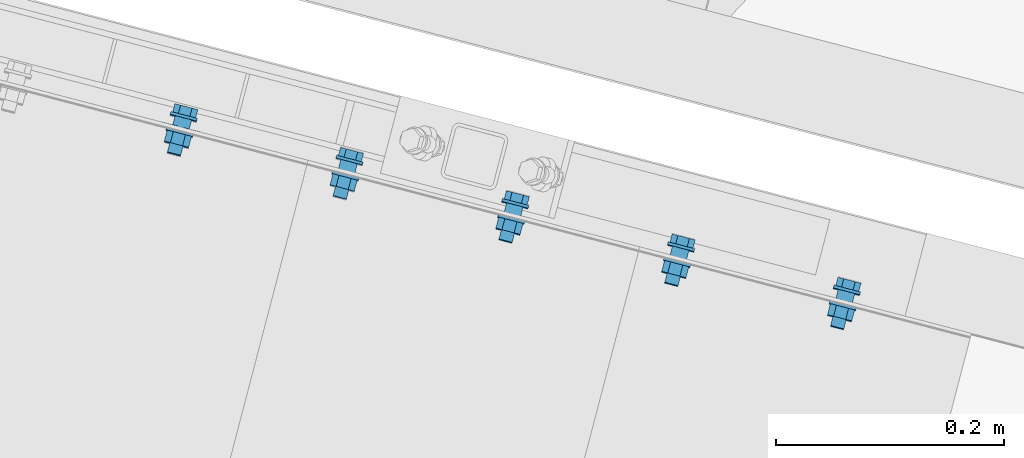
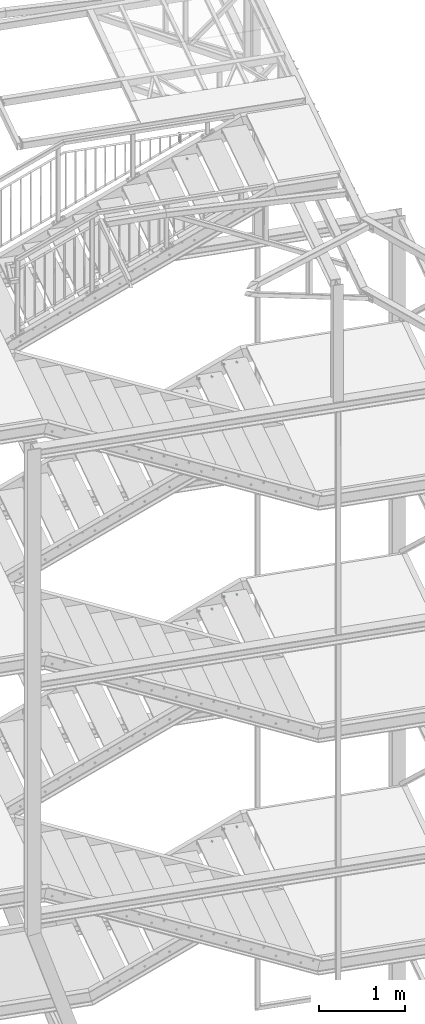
# One storey, part 152 of 169: 14 mechanical fasteners, 9 elements without a shape of their own.
"""IFC2X3 building model written with IfcOpenShell, lengths in millimetres."""

from ifc_helpers import new_model, si_unit, frame, frame_2d, origin_with_axes, origin_2d_with_axis, place, context, subcontext, project, spatial, polyline, circle_curve, parameter, trimmed, segment, composite_curve, circle, outline, extrude, source, transform, mapped, material, type_object, element, aggregate, save


model = new_model("IFC2X3")

# Units and contexts
model_context = context("Model", 3, precision=1e-05, world=origin_with_axes())
body_context = subcontext(model_context, "Body", "Model", "MODEL_VIEW")
ifc_project = project(units=[si_unit("LENGTHUNIT", "METRE", prefix="MILLI"), si_unit("AREAUNIT", "SQUARE_METRE"), si_unit("VOLUMEUNIT", "CUBIC_METRE"), si_unit("MASSUNIT", "GRAM", prefix="KILO"), si_unit("TIMEUNIT", "SECOND"), si_unit("PLANEANGLEUNIT", "RADIAN"), si_unit("SOLIDANGLEUNIT", "STERADIAN"), si_unit("THERMODYNAMICTEMPERATUREUNIT", "DEGREE_CELSIUS"), si_unit("LUMINOUSINTENSITYUNIT", "LUMEN")], contexts=[model_context])

# Site, building, storey
site_placement = place(None, origin_with_axes())
site = spatial("IfcSite", under=ifc_project, at=site_placement, Name="Undefined", CompositionType="ELEMENT")
building_placement = place(site_placement, origin_with_axes())
building = spatial("IfcBuilding", under=site, at=building_placement, Name="Undefined", CompositionType="ELEMENT")
storey_placement = place(building_placement, origin_with_axes())
storey = spatial("IfcBuildingStorey", under=building, at=storey_placement, Name="Undefined", CompositionType="ELEMENT", Elevation=0.0)

# Assembly, mechanical fastener
assembly_1_placement = place(storey_placement, origin_with_axes())
assembly_1 = element("IfcElementAssembly", 1, at=assembly_1_placement, inside=storey, Name="Steel Assembly", AssemblyPlace="NOTDEFINED", PredefinedType="RIGID_FRAME")
ifc_material = material(Name="Undefined")
discrete_accessory_type = type_object("IfcDiscreteAccessoryType", Name="Bolt assembly")
shared_shape_1 = source(origin_with_axes(), body_context, "Body", "SweptSolid", [
    extrude(circle(Radius=7.5, at=origin_2d_with_axis()), frame((0.0, -8.39999975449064, 0.0), z_axis=(0.0, 1.0, 0.0), x_axis=(1.0, 0.0, 0.0)), (0.0, 0.0, 1.0), 8.5),
    extrude(circle(Radius=7.5, at=origin_2d_with_axis()), frame((0.0, -0.100000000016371, 0.0), z_axis=(0.0, 1.0, 0.0), x_axis=(1.0, 0.0, 0.0)), (0.0, 0.0, 1.0), 3.1),
    extrude(outline(polyline([(10.39230484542, 0.0), (5.19615242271, 9.00000000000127), (-5.19615242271, 9.00000000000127), (-10.39230484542, 0.0), (-5.19615242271, -9.00000000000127), (5.19615242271, -9.00000000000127), (10.39230484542, 0.0)])), frame((0.0, -18.4999993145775, 0.0), z_axis=(0.0, 1.0, 0.0), x_axis=(1.0, 0.0, 0.0)), (0.0, 0.0, 1.0), 7.5),
    extrude(circle(Radius=6.0, at=origin_2d_with_axis()), frame((0.0, -10.9999999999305, 0.0), z_axis=(0.0, 1.0, 0.0), x_axis=(1.0, 0.0, 0.0)), (0.0, 0.0, 1.0), 35.0),
    extrude(circle(Radius=12.0, at=origin_2d_with_axis()), frame((0.0, -10.9999999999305, 0.0), z_axis=(0.0, 1.0, 0.0), x_axis=(1.0, 0.0, 0.0)), (0.0, 0.0, 1.0), 2.5),
    extrude(circle(Radius=12.0, at=origin_2d_with_axis()), frame((0.0, 2.99999999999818, 0.0), z_axis=(0.0, 1.0, 0.0), x_axis=(1.0, 0.0, 0.0)), (0.0, 0.0, 1.0), 2.5),
    extrude(outline(polyline([(10.96965511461, 0.0), (5.484827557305, 9.50000000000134), (-5.484827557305, 9.50000000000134), (-10.96965511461, 0.0), (-5.484827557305, -9.50000000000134), (5.484827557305, -9.50000000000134), (10.96965511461, 0.0)])), frame((0.0, 5.50000000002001, 0.0), z_axis=(0.0, 1.0, 0.0), x_axis=(1.0, 0.0, 0.0)), (0.0, 0.0, 1.0), 10.0),
])
mechanical_fastener_1_placement = place(assembly_1_placement, frame((-24663.2200523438, 8006.3870829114, 10550.0958168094), z_axis=(-2.54700353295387e-10, 0.0, -1.0), x_axis=(0.967580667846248, -0.252562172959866, 0.0)))
mechanical_fastener_1 = element("IfcMechanicalFastener", 2, at=mechanical_fastener_1_placement, type_object=discrete_accessory_type, material=ifc_material, Name="Bolt assembly", NominalDiameter=12.0, NominalLength=35.0, context=body_context, shape_type="MappedRepresentation", body=[
    mapped(shared_shape_1, transform((35.0000000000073, -1.23691279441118e-10, 25.0))),
])

assembly_2_placement = place(storey_placement, origin_with_axes())
assembly_2 = element("IfcElementAssembly", 3, at=assembly_2_placement, inside=storey, Name="Steel Assembly", AssemblyPlace="NOTDEFINED", PredefinedType="RIGID_FRAME")
mechanical_fastener_2_placement = place(assembly_2_placement, frame((-24953.494256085, 8082.15573572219, 10400.0958168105), z_axis=(-2.54700353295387e-10, 0.0, -1.0), x_axis=(0.967580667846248, -0.252562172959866, 0.0)))
mechanical_fastener_2 = element("IfcMechanicalFastener", 4, at=mechanical_fastener_2_placement, type_object=discrete_accessory_type, material=ifc_material, Name="Bolt assembly", NominalDiameter=12.0, NominalLength=35.0, context=body_context, shape_type="MappedRepresentation", body=[
    mapped(shared_shape_1, transform((35.0000000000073, -1.23691279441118e-10, 25.0))),
])

assembly_3_placement = place(storey_placement, origin_with_axes())
assembly_3 = element("IfcElementAssembly", 5, at=assembly_3_placement, inside=storey, Name="Steel Assembly", AssemblyPlace="NOTDEFINED", PredefinedType="RIGID_FRAME")
mechanical_fastener_3_placement = place(assembly_3_placement, frame((-24663.3341297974, 8005.95016795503, 7250.0958476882), z_axis=(-2.54700353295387e-10, 0.0, -1.0), x_axis=(0.967580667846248, -0.252562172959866, 0.0)))
mechanical_fastener_3 = element("IfcMechanicalFastener", 6, at=mechanical_fastener_3_placement, type_object=discrete_accessory_type, material=ifc_material, Name="Bolt assembly", NominalDiameter=12.0, NominalLength=35.0, context=body_context, shape_type="MappedRepresentation", body=[
    mapped(shared_shape_1, transform((35.0000000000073, -1.23691279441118e-10, 25.0))),
])

assembly_4_placement = place(storey_placement, origin_with_axes())
assembly_4 = element("IfcElementAssembly", 7, at=assembly_4_placement, inside=storey, Name="Steel Assembly", AssemblyPlace="NOTDEFINED", PredefinedType="RIGID_FRAME")
mechanical_fastener_4_placement = place(assembly_4_placement, frame((-24953.6083335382, 8081.71882076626, 7100.09584768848), z_axis=(-2.54700353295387e-10, 0.0, -1.0), x_axis=(0.967580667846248, -0.252562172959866, 0.0)))
mechanical_fastener_4 = element("IfcMechanicalFastener", 8, at=mechanical_fastener_4_placement, type_object=discrete_accessory_type, material=ifc_material, Name="Bolt assembly", NominalDiameter=12.0, NominalLength=35.0, context=body_context, shape_type="MappedRepresentation", body=[
    mapped(shared_shape_1, transform((35.0000000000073, -1.23691279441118e-10, 25.0))),
])

assembly_5_placement = place(storey_placement, origin_with_axes())
assembly_5 = element("IfcElementAssembly", 9, at=assembly_5_placement, inside=storey, Name="Steel Assembly", AssemblyPlace="NOTDEFINED", PredefinedType="RIGID_FRAME")
mechanical_fastener_5_placement = place(assembly_5_placement, frame((-24663.4482154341, 8005.51325494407, 3950.09587438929), z_axis=(-2.54700353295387e-10, 0.0, -1.0), x_axis=(0.967580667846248, -0.252562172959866, 0.0)))
mechanical_fastener_5 = element("IfcMechanicalFastener", 10, at=mechanical_fastener_5_placement, type_object=discrete_accessory_type, material=ifc_material, Name="Bolt assembly", NominalDiameter=12.0, NominalLength=35.0, context=body_context, shape_type="MappedRepresentation", body=[
    mapped(shared_shape_1, transform((35.0000000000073, -1.23691279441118e-10, 25.0))),
])

assembly_6_placement = place(storey_placement, origin_with_axes())
assembly_6 = element("IfcElementAssembly", 11, at=assembly_6_placement, inside=storey, Name="Steel Assembly", AssemblyPlace="NOTDEFINED", PredefinedType="RIGID_FRAME")
shared_shape_2 = source(origin_with_axes(), body_context, "Body", "SweptSolid", [
    extrude(circle(Radius=7.5, at=origin_2d_with_axis()), frame((0.0, -8.39999975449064, 0.0), z_axis=(0.0, 1.0, 0.0), x_axis=(1.0, 0.0, 0.0)), (0.0, 0.0, 1.0), 8.5),
    extrude(outline(composite_curve([segment(polyline([(-10.0, 7.5), (10.0, 7.5)]), True, "CONTINUOUS"), segment(trimmed(circle_curve(frame_2d((10.0, 0.0), x_axis=(0.0, 1.0)), 7.5), [parameter(0.0)], [parameter(3.14159265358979)], False, "PARAMETER"), True, "CONTINUOUS"), segment(polyline([(10.0, -7.5), (-10.0, -7.5)]), True, "CONTINUOUS"), segment(trimmed(circle_curve(frame_2d((-10.0, 0.0), x_axis=(0.0, -1.0)), 7.5), [parameter(0.0)], [parameter(3.14159265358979)], False, "PARAMETER"), True, "DISCONTINUOUS")], self_intersect=False)), frame((0.0, -0.100000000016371, 0.0), z_axis=(0.0, 1.0, 0.0), x_axis=(1.0, 0.0, 0.0)), (0.0, 0.0, 1.0), 3.1),
    extrude(outline(polyline([(10.39230484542, 0.0), (5.19615242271, 9.00000000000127), (-5.19615242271, 9.00000000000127), (-10.39230484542, 0.0), (-5.19615242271, -9.00000000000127), (5.19615242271, -9.00000000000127), (10.39230484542, 0.0)])), frame((0.0, -18.4999993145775, 0.0), z_axis=(0.0, 1.0, 0.0), x_axis=(1.0, 0.0, 0.0)), (0.0, 0.0, 1.0), 7.5),
    extrude(circle(Radius=6.0, at=origin_2d_with_axis()), frame((0.0, -10.9999999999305, 0.0), z_axis=(0.0, 1.0, 0.0), x_axis=(1.0, 0.0, 0.0)), (0.0, 0.0, 1.0), 35.0),
    extrude(circle(Radius=12.0, at=origin_2d_with_axis()), frame((0.0, -10.9999999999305, 0.0), z_axis=(0.0, 1.0, 0.0), x_axis=(1.0, 0.0, 0.0)), (0.0, 0.0, 1.0), 2.5),
    extrude(circle(Radius=12.0, at=origin_2d_with_axis()), frame((0.0, 2.99999999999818, 0.0), z_axis=(0.0, 1.0, 0.0), x_axis=(1.0, 0.0, 0.0)), (0.0, 0.0, 1.0), 2.5),
    extrude(outline(polyline([(10.96965511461, 0.0), (5.484827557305, 9.50000000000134), (-5.484827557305, 9.50000000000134), (-10.96965511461, 0.0), (-5.484827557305, -9.50000000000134), (5.484827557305, -9.50000000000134), (10.96965511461, 0.0)])), frame((0.0, 5.50000000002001, 0.0), z_axis=(0.0, 1.0, 0.0), x_axis=(1.0, 0.0, 0.0)), (0.0, 0.0, 1.0), 10.0),
])
mechanical_fastener_6_placement = place(assembly_6_placement, frame((-25243.6543824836, 8158.36130350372, 13550.0957858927), z_axis=(-2.54700353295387e-10, 0.0, -1.0), x_axis=(0.967580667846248, -0.252562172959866, 0.0)))
mechanical_fastener_6 = element("IfcMechanicalFastener", 12, at=mechanical_fastener_6_placement, type_object=discrete_accessory_type, material=ifc_material, Name="Bolt assembly", NominalDiameter=12.0, NominalLength=35.0, context=body_context, shape_type="MappedRepresentation", body=[
    mapped(shared_shape_2, transform((185.00000000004, -6.51198206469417e-10, 25.0))),
])
aggregate(assembly_6, [mechanical_fastener_6])

# Mechanical fastener
shared_shape_3 = source(origin_with_axes(), body_context, "Body", "SweptSolid", [
    extrude(circle(Radius=7.5, at=origin_2d_with_axis()), frame((0.0, -8.39999975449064, 0.0), z_axis=(0.0, 1.0, 0.0), x_axis=(1.0, 0.0, 0.0)), (0.0, 0.0, 1.0), 8.5),
    extrude(outline(composite_curve([segment(polyline([(-10.0, 7.5), (10.0, 7.5)]), True, "CONTINUOUS"), segment(trimmed(circle_curve(frame_2d((10.0, 0.0), x_axis=(0.0, 1.0)), 7.5), [parameter(0.0)], [parameter(3.14159265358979)], False, "PARAMETER"), True, "CONTINUOUS"), segment(polyline([(10.0, -7.5), (-10.0, -7.5)]), True, "CONTINUOUS"), segment(trimmed(circle_curve(frame_2d((-10.0, 0.0), x_axis=(0.0, -1.0)), 7.5), [parameter(0.0)], [parameter(3.14159265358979)], False, "PARAMETER"), True, "DISCONTINUOUS")], self_intersect=False)), frame((0.0, -0.100000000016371, 0.0), z_axis=(0.0, 1.0, 0.0), x_axis=(1.0, 0.0, 0.0)), (0.0, 0.0, 1.0), 3.1),
    extrude(outline(polyline([(10.39230484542, 0.0), (5.19615242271, 9.00000000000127), (-5.19615242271, 9.00000000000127), (-10.39230484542, 0.0), (-5.19615242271, -9.00000000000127), (5.19615242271, -9.00000000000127), (10.39230484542, 0.0)])), frame((0.0, -18.4999993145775, 0.0), z_axis=(0.0, 1.0, 0.0), x_axis=(1.0, 0.0, 0.0)), (0.0, 0.0, 1.0), 7.5),
    extrude(circle(Radius=6.0, at=origin_2d_with_axis()), frame((0.0, -10.9999999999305, 0.0), z_axis=(0.0, 1.0, 0.0), x_axis=(1.0, 0.0, 0.0)), (0.0, 0.0, 1.0), 35.0),
    extrude(circle(Radius=12.0, at=origin_2d_with_axis()), frame((0.0, -10.9999999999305, 0.0), z_axis=(0.0, 1.0, 0.0), x_axis=(1.0, 0.0, 0.0)), (0.0, 0.0, 1.0), 2.5),
    extrude(circle(Radius=12.0, at=origin_2d_with_axis()), frame((0.0, 2.99999999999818, 0.0), z_axis=(0.0, 1.0, 0.0), x_axis=(1.0, 0.0, 0.0)), (0.0, 0.0, 1.0), 2.5),
    extrude(outline(polyline([(10.96965511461, 0.0), (5.484827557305, 9.50000000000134), (-5.484827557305, 9.50000000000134), (-10.96965511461, 0.0), (-5.484827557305, -9.50000000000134), (5.484827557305, -9.50000000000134), (10.96965511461, 0.0)])), frame((0.0, 5.50000000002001, 0.0), z_axis=(0.0, 1.0, 0.0), x_axis=(1.0, 0.0, 0.0)), (0.0, 0.0, 1.0), 10.0),
])
mechanical_fastener_7_placement = place(assembly_1_placement, frame((-24663.2200523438, 8006.3870829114, 10550.0958168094), z_axis=(-2.54700353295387e-10, 0.0, -1.0), x_axis=(0.967580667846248, -0.252562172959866, 0.0)))
mechanical_fastener_7 = element("IfcMechanicalFastener", 13, at=mechanical_fastener_7_placement, type_object=discrete_accessory_type, material=ifc_material, Name="Bolt assembly", NominalDiameter=12.0, NominalLength=35.0, context=body_context, shape_type="MappedRepresentation", body=[
    mapped(shared_shape_3, transform((185.00000000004, -6.51198206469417e-10, 25.0))),
])

aggregate(assembly_1, [mechanical_fastener_7, mechanical_fastener_1])

shared_shape_4 = source(origin_with_axes(), body_context, "Body", "SweptSolid", [
    extrude(circle(Radius=7.5, at=origin_2d_with_axis()), frame((0.0, -8.39999975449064, 0.0), z_axis=(0.0, 1.0, 0.0), x_axis=(1.0, 0.0, 0.0)), (0.0, 0.0, 1.0), 8.5),
    extrude(outline(composite_curve([segment(polyline([(-10.0, 7.5), (10.0, 7.5)]), True, "CONTINUOUS"), segment(trimmed(circle_curve(frame_2d((10.0, 0.0), x_axis=(0.0, 1.0)), 7.5), [parameter(0.0)], [parameter(3.14159265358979)], False, "PARAMETER"), True, "CONTINUOUS"), segment(polyline([(10.0, -7.5), (-10.0, -7.5)]), True, "CONTINUOUS"), segment(trimmed(circle_curve(frame_2d((-10.0, 0.0), x_axis=(0.0, -1.0)), 7.5), [parameter(0.0)], [parameter(3.14159265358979)], False, "PARAMETER"), True, "DISCONTINUOUS")], self_intersect=False)), frame((0.0, -0.100000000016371, 0.0), z_axis=(0.0, 1.0, 0.0), x_axis=(1.0, 0.0, 0.0)), (0.0, 0.0, 1.0), 3.1),
    extrude(outline(polyline([(10.39230484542, 0.0), (5.19615242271, 9.00000000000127), (-5.19615242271, 9.00000000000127), (-10.39230484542, 0.0), (-5.19615242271, -9.00000000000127), (5.19615242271, -9.00000000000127), (10.39230484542, 0.0)])), frame((0.0, -18.4999993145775, 0.0), z_axis=(0.0, 1.0, 0.0), x_axis=(1.0, 0.0, 0.0)), (0.0, 0.0, 1.0), 7.5),
    extrude(circle(Radius=6.0, at=origin_2d_with_axis()), frame((0.0, -10.9999999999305, 0.0), z_axis=(0.0, 1.0, 0.0), x_axis=(1.0, 0.0, 0.0)), (0.0, 0.0, 1.0), 35.0),
    extrude(circle(Radius=12.0, at=origin_2d_with_axis()), frame((0.0, -10.9999999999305, 0.0), z_axis=(0.0, 1.0, 0.0), x_axis=(1.0, 0.0, 0.0)), (0.0, 0.0, 1.0), 2.5),
    extrude(circle(Radius=12.0, at=origin_2d_with_axis()), frame((0.0, 2.99999999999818, 0.0), z_axis=(0.0, 1.0, 0.0), x_axis=(1.0, 0.0, 0.0)), (0.0, 0.0, 1.0), 2.5),
    extrude(outline(polyline([(10.96965511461, 0.0), (5.484827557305, 9.50000000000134), (-5.484827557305, 9.50000000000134), (-10.96965511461, 0.0), (-5.484827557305, -9.50000000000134), (5.484827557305, -9.50000000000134), (10.96965511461, 0.0)])), frame((0.0, 5.50000000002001, 0.0), z_axis=(0.0, 1.0, 0.0), x_axis=(1.0, 0.0, 0.0)), (0.0, 0.0, 1.0), 10.0),
])
mechanical_fastener_8_placement = place(assembly_2_placement, frame((-24953.494256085, 8082.15573572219, 10400.0958168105), z_axis=(-2.54700353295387e-10, 0.0, -1.0), x_axis=(0.967580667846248, -0.252562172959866, 0.0)))
mechanical_fastener_8 = element("IfcMechanicalFastener", 14, at=mechanical_fastener_8_placement, type_object=discrete_accessory_type, material=ifc_material, Name="Bolt assembly", NominalDiameter=12.0, NominalLength=35.0, context=body_context, shape_type="MappedRepresentation", body=[
    mapped(shared_shape_4, transform((185.00000000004, -6.51198206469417e-10, 25.0))),
])

aggregate(assembly_2, [mechanical_fastener_8, mechanical_fastener_2])

# Assembly, mechanical fastener
assembly_7_placement = place(storey_placement, origin_with_axes())
assembly_7 = element("IfcElementAssembly", 15, at=assembly_7_placement, inside=storey, Name="Steel Assembly", AssemblyPlace="NOTDEFINED", PredefinedType="RIGID_FRAME")
shared_shape_5 = source(origin_with_axes(), body_context, "Body", "SweptSolid", [
    extrude(circle(Radius=7.5, at=origin_2d_with_axis()), frame((0.0, -8.39999975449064, 0.0), z_axis=(0.0, 1.0, 0.0), x_axis=(1.0, 0.0, 0.0)), (0.0, 0.0, 1.0), 8.5),
    extrude(outline(composite_curve([segment(polyline([(-10.0, 7.5), (10.0, 7.5)]), True, "CONTINUOUS"), segment(trimmed(circle_curve(frame_2d((10.0, 0.0), x_axis=(0.0, 1.0)), 7.5), [parameter(0.0)], [parameter(3.14159265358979)], False, "PARAMETER"), True, "CONTINUOUS"), segment(polyline([(10.0, -7.5), (-10.0, -7.5)]), True, "CONTINUOUS"), segment(trimmed(circle_curve(frame_2d((-10.0, 0.0), x_axis=(0.0, -1.0)), 7.5), [parameter(0.0)], [parameter(3.14159265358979)], False, "PARAMETER"), True, "DISCONTINUOUS")], self_intersect=False)), frame((0.0, -0.100000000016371, 0.0), z_axis=(0.0, 1.0, 0.0), x_axis=(1.0, 0.0, 0.0)), (0.0, 0.0, 1.0), 3.1),
    extrude(outline(polyline([(10.39230484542, 0.0), (5.19615242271, 9.00000000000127), (-5.19615242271, 9.00000000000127), (-10.39230484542, 0.0), (-5.19615242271, -9.00000000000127), (5.19615242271, -9.00000000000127), (10.39230484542, 0.0)])), frame((0.0, -18.4999993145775, 0.0), z_axis=(0.0, 1.0, 0.0), x_axis=(1.0, 0.0, 0.0)), (0.0, 0.0, 1.0), 7.5),
    extrude(circle(Radius=6.0, at=origin_2d_with_axis()), frame((0.0, -10.9999999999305, 0.0), z_axis=(0.0, 1.0, 0.0), x_axis=(1.0, 0.0, 0.0)), (0.0, 0.0, 1.0), 35.0),
    extrude(circle(Radius=12.0, at=origin_2d_with_axis()), frame((0.0, -10.9999999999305, 0.0), z_axis=(0.0, 1.0, 0.0), x_axis=(1.0, 0.0, 0.0)), (0.0, 0.0, 1.0), 2.5),
    extrude(circle(Radius=12.0, at=origin_2d_with_axis()), frame((0.0, 2.99999999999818, 0.0), z_axis=(0.0, 1.0, 0.0), x_axis=(1.0, 0.0, 0.0)), (0.0, 0.0, 1.0), 2.5),
    extrude(outline(polyline([(10.96965511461, 0.0), (5.484827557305, 9.50000000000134), (-5.484827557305, 9.50000000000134), (-10.96965511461, 0.0), (-5.484827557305, -9.50000000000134), (5.484827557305, -9.50000000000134), (10.96965511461, 0.0)])), frame((0.0, 5.50000000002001, 0.0), z_axis=(0.0, 1.0, 0.0), x_axis=(1.0, 0.0, 0.0)), (0.0, 0.0, 1.0), 10.0),
])
mechanical_fastener_9_placement = place(assembly_7_placement, frame((-25243.7684598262, 8157.92438853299, 10250.0958168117), z_axis=(-2.54700353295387e-10, 0.0, -1.0), x_axis=(0.967580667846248, -0.252562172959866, 0.0)))
mechanical_fastener_9 = element("IfcMechanicalFastener", 16, at=mechanical_fastener_9_placement, type_object=discrete_accessory_type, material=ifc_material, Name="Bolt assembly", NominalDiameter=12.0, NominalLength=35.0, context=body_context, shape_type="MappedRepresentation", body=[
    mapped(shared_shape_5, transform((185.00000000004, -6.51198206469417e-10, 25.0))),
])
aggregate(assembly_7, [mechanical_fastener_9])

# Mechanical fastener
shared_shape_6 = source(origin_with_axes(), body_context, "Body", "SweptSolid", [
    extrude(circle(Radius=7.5, at=origin_2d_with_axis()), frame((0.0, -8.39999975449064, 0.0), z_axis=(0.0, 1.0, 0.0), x_axis=(1.0, 0.0, 0.0)), (0.0, 0.0, 1.0), 8.5),
    extrude(outline(composite_curve([segment(polyline([(-10.0, 7.5), (10.0, 7.5)]), True, "CONTINUOUS"), segment(trimmed(circle_curve(frame_2d((10.0, 0.0), x_axis=(0.0, 1.0)), 7.5), [parameter(0.0)], [parameter(3.14159265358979)], False, "PARAMETER"), True, "CONTINUOUS"), segment(polyline([(10.0, -7.5), (-10.0, -7.5)]), True, "CONTINUOUS"), segment(trimmed(circle_curve(frame_2d((-10.0, 0.0), x_axis=(0.0, -1.0)), 7.5), [parameter(0.0)], [parameter(3.14159265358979)], False, "PARAMETER"), True, "DISCONTINUOUS")], self_intersect=False)), frame((0.0, -0.100000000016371, 0.0), z_axis=(0.0, 1.0, 0.0), x_axis=(1.0, 0.0, 0.0)), (0.0, 0.0, 1.0), 3.1),
    extrude(outline(polyline([(10.39230484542, 0.0), (5.19615242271, 9.00000000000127), (-5.19615242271, 9.00000000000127), (-10.39230484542, 0.0), (-5.19615242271, -9.00000000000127), (5.19615242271, -9.00000000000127), (10.39230484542, 0.0)])), frame((0.0, -18.4999993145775, 0.0), z_axis=(0.0, 1.0, 0.0), x_axis=(1.0, 0.0, 0.0)), (0.0, 0.0, 1.0), 7.5),
    extrude(circle(Radius=6.0, at=origin_2d_with_axis()), frame((0.0, -10.9999999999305, 0.0), z_axis=(0.0, 1.0, 0.0), x_axis=(1.0, 0.0, 0.0)), (0.0, 0.0, 1.0), 35.0),
    extrude(circle(Radius=12.0, at=origin_2d_with_axis()), frame((0.0, -10.9999999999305, 0.0), z_axis=(0.0, 1.0, 0.0), x_axis=(1.0, 0.0, 0.0)), (0.0, 0.0, 1.0), 2.5),
    extrude(circle(Radius=12.0, at=origin_2d_with_axis()), frame((0.0, 2.99999999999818, 0.0), z_axis=(0.0, 1.0, 0.0), x_axis=(1.0, 0.0, 0.0)), (0.0, 0.0, 1.0), 2.5),
    extrude(outline(polyline([(10.96965511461, 0.0), (5.484827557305, 9.50000000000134), (-5.484827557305, 9.50000000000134), (-10.96965511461, 0.0), (-5.484827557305, -9.50000000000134), (5.484827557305, -9.50000000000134), (10.96965511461, 0.0)])), frame((0.0, 5.50000000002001, 0.0), z_axis=(0.0, 1.0, 0.0), x_axis=(1.0, 0.0, 0.0)), (0.0, 0.0, 1.0), 10.0),
])
mechanical_fastener_10_placement = place(assembly_3_placement, frame((-24663.3341297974, 8005.95016795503, 7250.0958476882), z_axis=(-2.54700353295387e-10, 0.0, -1.0), x_axis=(0.967580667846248, -0.252562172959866, 0.0)))
mechanical_fastener_10 = element("IfcMechanicalFastener", 17, at=mechanical_fastener_10_placement, type_object=discrete_accessory_type, material=ifc_material, Name="Bolt assembly", NominalDiameter=12.0, NominalLength=35.0, context=body_context, shape_type="MappedRepresentation", body=[
    mapped(shared_shape_6, transform((185.00000000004, -6.51198206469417e-10, 25.0))),
])

aggregate(assembly_3, [mechanical_fastener_10, mechanical_fastener_3])

shared_shape_7 = source(origin_with_axes(), body_context, "Body", "SweptSolid", [
    extrude(circle(Radius=7.5, at=origin_2d_with_axis()), frame((0.0, -8.39999975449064, 0.0), z_axis=(0.0, 1.0, 0.0), x_axis=(1.0, 0.0, 0.0)), (0.0, 0.0, 1.0), 8.5),
    extrude(outline(composite_curve([segment(polyline([(-10.0, 7.5), (10.0, 7.5)]), True, "CONTINUOUS"), segment(trimmed(circle_curve(frame_2d((10.0, 0.0), x_axis=(0.0, 1.0)), 7.5), [parameter(0.0)], [parameter(3.14159265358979)], False, "PARAMETER"), True, "CONTINUOUS"), segment(polyline([(10.0, -7.5), (-10.0, -7.5)]), True, "CONTINUOUS"), segment(trimmed(circle_curve(frame_2d((-10.0, 0.0), x_axis=(0.0, -1.0)), 7.5), [parameter(0.0)], [parameter(3.14159265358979)], False, "PARAMETER"), True, "DISCONTINUOUS")], self_intersect=False)), frame((0.0, -0.100000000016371, 0.0), z_axis=(0.0, 1.0, 0.0), x_axis=(1.0, 0.0, 0.0)), (0.0, 0.0, 1.0), 3.1),
    extrude(outline(polyline([(10.39230484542, 0.0), (5.19615242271, 9.00000000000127), (-5.19615242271, 9.00000000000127), (-10.39230484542, 0.0), (-5.19615242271, -9.00000000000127), (5.19615242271, -9.00000000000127), (10.39230484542, 0.0)])), frame((0.0, -18.4999993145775, 0.0), z_axis=(0.0, 1.0, 0.0), x_axis=(1.0, 0.0, 0.0)), (0.0, 0.0, 1.0), 7.5),
    extrude(circle(Radius=6.0, at=origin_2d_with_axis()), frame((0.0, -10.9999999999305, 0.0), z_axis=(0.0, 1.0, 0.0), x_axis=(1.0, 0.0, 0.0)), (0.0, 0.0, 1.0), 35.0),
    extrude(circle(Radius=12.0, at=origin_2d_with_axis()), frame((0.0, -10.9999999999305, 0.0), z_axis=(0.0, 1.0, 0.0), x_axis=(1.0, 0.0, 0.0)), (0.0, 0.0, 1.0), 2.5),
    extrude(circle(Radius=12.0, at=origin_2d_with_axis()), frame((0.0, 2.99999999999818, 0.0), z_axis=(0.0, 1.0, 0.0), x_axis=(1.0, 0.0, 0.0)), (0.0, 0.0, 1.0), 2.5),
    extrude(outline(polyline([(10.96965511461, 0.0), (5.484827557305, 9.50000000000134), (-5.484827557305, 9.50000000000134), (-10.96965511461, 0.0), (-5.484827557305, -9.50000000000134), (5.484827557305, -9.50000000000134), (10.96965511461, 0.0)])), frame((0.0, 5.50000000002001, 0.0), z_axis=(0.0, 1.0, 0.0), x_axis=(1.0, 0.0, 0.0)), (0.0, 0.0, 1.0), 10.0),
])
mechanical_fastener_11_placement = place(assembly_4_placement, frame((-24953.6083335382, 8081.71882076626, 7100.09584768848), z_axis=(-2.54700353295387e-10, 0.0, -1.0), x_axis=(0.967580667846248, -0.252562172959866, 0.0)))
mechanical_fastener_11 = element("IfcMechanicalFastener", 18, at=mechanical_fastener_11_placement, type_object=discrete_accessory_type, material=ifc_material, Name="Bolt assembly", NominalDiameter=12.0, NominalLength=35.0, context=body_context, shape_type="MappedRepresentation", body=[
    mapped(shared_shape_7, transform((185.00000000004, -6.51198206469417e-10, 25.0))),
])

aggregate(assembly_4, [mechanical_fastener_11, mechanical_fastener_4])

# Assembly, mechanical fastener
assembly_8_placement = place(storey_placement, origin_with_axes())
assembly_8 = element("IfcElementAssembly", 19, at=assembly_8_placement, inside=storey, Name="Steel Assembly", AssemblyPlace="NOTDEFINED", PredefinedType="RIGID_FRAME")
shared_shape_8 = source(origin_with_axes(), body_context, "Body", "SweptSolid", [
    extrude(circle(Radius=7.5, at=origin_2d_with_axis()), frame((0.0, -8.39999975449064, 0.0), z_axis=(0.0, 1.0, 0.0), x_axis=(1.0, 0.0, 0.0)), (0.0, 0.0, 1.0), 8.5),
    extrude(outline(composite_curve([segment(polyline([(-10.0, 7.5), (10.0, 7.5)]), True, "CONTINUOUS"), segment(trimmed(circle_curve(frame_2d((10.0, 0.0), x_axis=(0.0, 1.0)), 7.5), [parameter(0.0)], [parameter(3.14159265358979)], False, "PARAMETER"), True, "CONTINUOUS"), segment(polyline([(10.0, -7.5), (-10.0, -7.5)]), True, "CONTINUOUS"), segment(trimmed(circle_curve(frame_2d((-10.0, 0.0), x_axis=(0.0, -1.0)), 7.5), [parameter(0.0)], [parameter(3.14159265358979)], False, "PARAMETER"), True, "DISCONTINUOUS")], self_intersect=False)), frame((0.0, -0.100000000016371, 0.0), z_axis=(0.0, 1.0, 0.0), x_axis=(1.0, 0.0, 0.0)), (0.0, 0.0, 1.0), 3.1),
    extrude(outline(polyline([(10.39230484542, 0.0), (5.19615242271, 9.00000000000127), (-5.19615242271, 9.00000000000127), (-10.39230484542, 0.0), (-5.19615242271, -9.00000000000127), (5.19615242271, -9.00000000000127), (10.39230484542, 0.0)])), frame((0.0, -18.4999993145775, 0.0), z_axis=(0.0, 1.0, 0.0), x_axis=(1.0, 0.0, 0.0)), (0.0, 0.0, 1.0), 7.5),
    extrude(circle(Radius=6.0, at=origin_2d_with_axis()), frame((0.0, -10.9999999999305, 0.0), z_axis=(0.0, 1.0, 0.0), x_axis=(1.0, 0.0, 0.0)), (0.0, 0.0, 1.0), 35.0),
    extrude(circle(Radius=12.0, at=origin_2d_with_axis()), frame((0.0, -10.9999999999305, 0.0), z_axis=(0.0, 1.0, 0.0), x_axis=(1.0, 0.0, 0.0)), (0.0, 0.0, 1.0), 2.5),
    extrude(circle(Radius=12.0, at=origin_2d_with_axis()), frame((0.0, 2.99999999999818, 0.0), z_axis=(0.0, 1.0, 0.0), x_axis=(1.0, 0.0, 0.0)), (0.0, 0.0, 1.0), 2.5),
    extrude(outline(polyline([(10.96965511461, 0.0), (5.484827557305, 9.50000000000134), (-5.484827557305, 9.50000000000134), (-10.96965511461, 0.0), (-5.484827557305, -9.50000000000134), (5.484827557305, -9.50000000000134), (10.96965511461, 0.0)])), frame((0.0, 5.50000000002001, 0.0), z_axis=(0.0, 1.0, 0.0), x_axis=(1.0, 0.0, 0.0)), (0.0, 0.0, 1.0), 10.0),
])
mechanical_fastener_12_placement = place(assembly_8_placement, frame((-25243.882537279, 8157.4874735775, 6950.09584768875), z_axis=(-2.54700353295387e-10, 0.0, -1.0), x_axis=(0.967580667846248, -0.252562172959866, 0.0)))
mechanical_fastener_12 = element("IfcMechanicalFastener", 20, at=mechanical_fastener_12_placement, type_object=discrete_accessory_type, material=ifc_material, Name="Bolt assembly", NominalDiameter=12.0, NominalLength=35.0, context=body_context, shape_type="MappedRepresentation", body=[
    mapped(shared_shape_8, transform((185.00000000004, -6.51198206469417e-10, 25.0))),
])
aggregate(assembly_8, [mechanical_fastener_12])

# Mechanical fastener
shared_shape_9 = source(origin_with_axes(), body_context, "Body", "SweptSolid", [
    extrude(circle(Radius=7.5, at=origin_2d_with_axis()), frame((0.0, -8.39999975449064, 0.0), z_axis=(0.0, 1.0, 0.0), x_axis=(1.0, 0.0, 0.0)), (0.0, 0.0, 1.0), 8.5),
    extrude(outline(composite_curve([segment(polyline([(-10.0, 7.5), (10.0, 7.5)]), True, "CONTINUOUS"), segment(trimmed(circle_curve(frame_2d((10.0, 0.0), x_axis=(0.0, 1.0)), 7.5), [parameter(0.0)], [parameter(3.14159265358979)], False, "PARAMETER"), True, "CONTINUOUS"), segment(polyline([(10.0, -7.5), (-10.0, -7.5)]), True, "CONTINUOUS"), segment(trimmed(circle_curve(frame_2d((-10.0, 0.0), x_axis=(0.0, -1.0)), 7.5), [parameter(0.0)], [parameter(3.14159265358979)], False, "PARAMETER"), True, "DISCONTINUOUS")], self_intersect=False)), frame((0.0, -0.100000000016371, 0.0), z_axis=(0.0, 1.0, 0.0), x_axis=(1.0, 0.0, 0.0)), (0.0, 0.0, 1.0), 3.1),
    extrude(outline(polyline([(10.39230484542, 0.0), (5.19615242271, 9.00000000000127), (-5.19615242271, 9.00000000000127), (-10.39230484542, 0.0), (-5.19615242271, -9.00000000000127), (5.19615242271, -9.00000000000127), (10.39230484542, 0.0)])), frame((0.0, -18.4999993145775, 0.0), z_axis=(0.0, 1.0, 0.0), x_axis=(1.0, 0.0, 0.0)), (0.0, 0.0, 1.0), 7.5),
    extrude(circle(Radius=6.0, at=origin_2d_with_axis()), frame((0.0, -10.9999999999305, 0.0), z_axis=(0.0, 1.0, 0.0), x_axis=(1.0, 0.0, 0.0)), (0.0, 0.0, 1.0), 35.0),
    extrude(circle(Radius=12.0, at=origin_2d_with_axis()), frame((0.0, -10.9999999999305, 0.0), z_axis=(0.0, 1.0, 0.0), x_axis=(1.0, 0.0, 0.0)), (0.0, 0.0, 1.0), 2.5),
    extrude(circle(Radius=12.0, at=origin_2d_with_axis()), frame((0.0, 2.99999999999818, 0.0), z_axis=(0.0, 1.0, 0.0), x_axis=(1.0, 0.0, 0.0)), (0.0, 0.0, 1.0), 2.5),
    extrude(outline(polyline([(10.96965511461, 0.0), (5.484827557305, 9.50000000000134), (-5.484827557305, 9.50000000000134), (-10.96965511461, 0.0), (-5.484827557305, -9.50000000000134), (5.484827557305, -9.50000000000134), (10.96965511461, 0.0)])), frame((0.0, 5.50000000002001, 0.0), z_axis=(0.0, 1.0, 0.0), x_axis=(1.0, 0.0, 0.0)), (0.0, 0.0, 1.0), 10.0),
])
mechanical_fastener_13_placement = place(assembly_5_placement, frame((-24663.4482154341, 8005.51325494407, 3950.09587438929), z_axis=(-2.54700353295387e-10, 0.0, -1.0), x_axis=(0.967580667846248, -0.252562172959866, 0.0)))
mechanical_fastener_13 = element("IfcMechanicalFastener", 21, at=mechanical_fastener_13_placement, type_object=discrete_accessory_type, material=ifc_material, Name="Bolt assembly", NominalDiameter=12.0, NominalLength=35.0, context=body_context, shape_type="MappedRepresentation", body=[
    mapped(shared_shape_9, transform((185.00000000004, -6.51198206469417e-10, 25.0))),
])

aggregate(assembly_5, [mechanical_fastener_13, mechanical_fastener_5])

# Assembly, mechanical fastener
assembly_9_placement = place(storey_placement, origin_with_axes())
assembly_9 = element("IfcElementAssembly", 22, at=assembly_9_placement, inside=storey, Name="Steel Assembly", AssemblyPlace="NOTDEFINED", PredefinedType="RIGID_FRAME")
shared_shape_10 = source(origin_with_axes(), body_context, "Body", "SweptSolid", [
    extrude(circle(Radius=7.5, at=origin_2d_with_axis()), frame((0.0, -8.39999975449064, 0.0), z_axis=(0.0, 1.0, 0.0), x_axis=(1.0, 0.0, 0.0)), (0.0, 0.0, 1.0), 8.5),
    extrude(outline(composite_curve([segment(polyline([(-10.0, 7.5), (10.0, 7.5)]), True, "CONTINUOUS"), segment(trimmed(circle_curve(frame_2d((10.0, 0.0), x_axis=(0.0, 1.0)), 7.5), [parameter(0.0)], [parameter(3.14159265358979)], False, "PARAMETER"), True, "CONTINUOUS"), segment(polyline([(10.0, -7.5), (-10.0, -7.5)]), True, "CONTINUOUS"), segment(trimmed(circle_curve(frame_2d((-10.0, 0.0), x_axis=(0.0, -1.0)), 7.5), [parameter(0.0)], [parameter(3.14159265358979)], False, "PARAMETER"), True, "DISCONTINUOUS")], self_intersect=False)), frame((0.0, -0.100000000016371, 0.0), z_axis=(0.0, 1.0, 0.0), x_axis=(1.0, 0.0, 0.0)), (0.0, 0.0, 1.0), 3.1),
    extrude(outline(polyline([(10.39230484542, 0.0), (5.19615242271, 9.00000000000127), (-5.19615242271, 9.00000000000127), (-10.39230484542, 0.0), (-5.19615242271, -9.00000000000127), (5.19615242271, -9.00000000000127), (10.39230484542, 0.0)])), frame((0.0, -18.4999993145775, 0.0), z_axis=(0.0, 1.0, 0.0), x_axis=(1.0, 0.0, 0.0)), (0.0, 0.0, 1.0), 7.5),
    extrude(circle(Radius=6.0, at=origin_2d_with_axis()), frame((0.0, -10.9999999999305, 0.0), z_axis=(0.0, 1.0, 0.0), x_axis=(1.0, 0.0, 0.0)), (0.0, 0.0, 1.0), 35.0),
    extrude(circle(Radius=12.0, at=origin_2d_with_axis()), frame((0.0, -10.9999999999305, 0.0), z_axis=(0.0, 1.0, 0.0), x_axis=(1.0, 0.0, 0.0)), (0.0, 0.0, 1.0), 2.5),
    extrude(circle(Radius=12.0, at=origin_2d_with_axis()), frame((0.0, 2.99999999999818, 0.0), z_axis=(0.0, 1.0, 0.0), x_axis=(1.0, 0.0, 0.0)), (0.0, 0.0, 1.0), 2.5),
    extrude(outline(polyline([(10.96965511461, 0.0), (5.484827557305, 9.50000000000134), (-5.484827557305, 9.50000000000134), (-10.96965511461, 0.0), (-5.484827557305, -9.50000000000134), (5.484827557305, -9.50000000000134), (10.96965511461, 0.0)])), frame((0.0, 5.50000000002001, 0.0), z_axis=(0.0, 1.0, 0.0), x_axis=(1.0, 0.0, 0.0)), (0.0, 0.0, 1.0), 10.0),
])
mechanical_fastener_14_placement = place(assembly_9_placement, frame((-24953.7224191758, 8081.28190775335, 3800.09587438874), z_axis=(-2.54700353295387e-10, 0.0, -1.0), x_axis=(0.967580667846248, -0.252562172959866, 0.0)))
mechanical_fastener_14 = element("IfcMechanicalFastener", 23, at=mechanical_fastener_14_placement, type_object=discrete_accessory_type, material=ifc_material, Name="Bolt assembly", NominalDiameter=12.0, NominalLength=35.0, context=body_context, shape_type="MappedRepresentation", body=[
    mapped(shared_shape_10, transform((185.00000000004, -6.51198206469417e-10, 25.0))),
])
aggregate(assembly_9, [mechanical_fastener_14])

save(model, "model.ifc")
